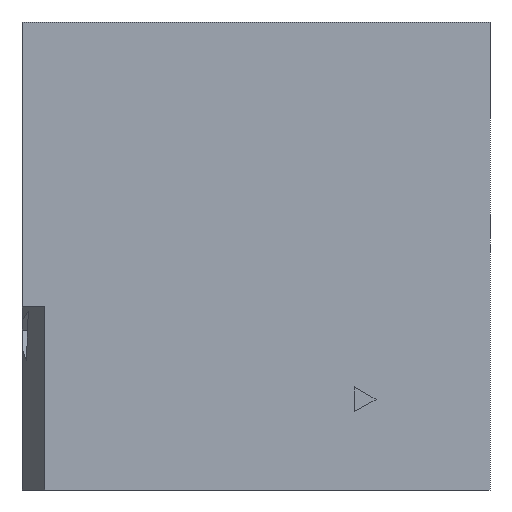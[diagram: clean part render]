
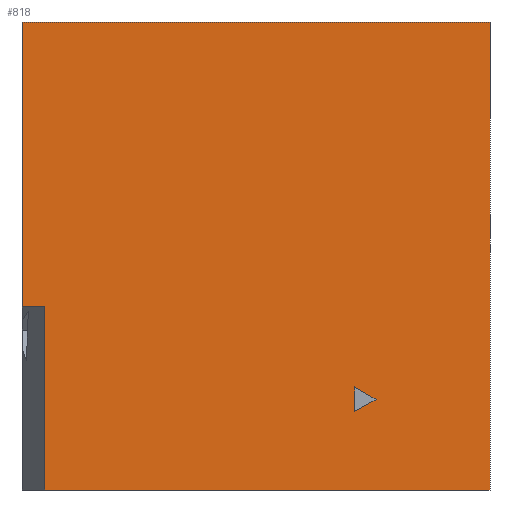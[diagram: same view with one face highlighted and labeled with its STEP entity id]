
A CAD part, left-side view. The second image highlights one B-rep face of the part: STEP entity #818.
In plain terms, the highlighted planar face has unit normal (-1, 0, 0).
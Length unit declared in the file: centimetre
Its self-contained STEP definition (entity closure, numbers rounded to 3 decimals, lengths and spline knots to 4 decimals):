
#15 = LINE ( 'NONE', #649, #418 ) ;
#95 = LINE ( 'NONE', #972, #238 ) ;
#101 = LINE ( 'NONE', #1175, #1006 ) ;
#114 = DIRECTION ( 'NONE',  ( 0., -0.868, 0.496 ) ) ;
#127 = EDGE_CURVE ( 'NONE', #704, #463, #15, .T. ) ;
#139 = VERTEX_POINT ( 'NONE', #1278 ) ;
#145 = LINE ( 'NONE', #577, #597 ) ;
#146 = VERTEX_POINT ( 'NONE', #545 ) ;
#169 = VERTEX_POINT ( 'NONE', #771 ) ;
#176 = EDGE_CURVE ( 'NONE', #169, #146, #314, .T. ) ;
#183 = CARTESIAN_POINT ( 'NONE',  ( 0., 0., 0. ) ) ;
#238 = VECTOR ( 'NONE', #312, 100. ) ;
#241 = DIRECTION ( 'NONE',  ( 0., -1., 0. ) ) ;
#279 = EDGE_CURVE ( 'NONE', #988, #139, #894, .T. ) ;
#280 = VECTOR ( 'NONE', #340, 100. ) ;
#301 = CARTESIAN_POINT ( 'NONE',  ( 0., 951.7683, 0. ) ) ;
#312 = DIRECTION ( 'NONE',  ( 0., 0., -1. ) ) ;
#314 = LINE ( 'NONE', #518, #551 ) ;
#338 = EDGE_CURVE ( 'NONE', #504, #851, #346, .T. ) ;
#340 = DIRECTION ( 'NONE',  ( 0., 1., 0. ) ) ;
#346 = LINE ( 'NONE', #1205, #872 ) ;
#401 = CARTESIAN_POINT ( 'NONE',  ( 0., 243.5242, 193.4842 ) ) ;
#418 = VECTOR ( 'NONE', #114, 100. ) ;
#457 = ORIENTED_EDGE ( 'NONE', *, *, #799, .T. ) ;
#463 = VERTEX_POINT ( 'NONE', #486 ) ;
#486 = CARTESIAN_POINT ( 'NONE',  ( 0., 243.5242, 193.4842 ) ) ;
#504 = VERTEX_POINT ( 'NONE', #301 ) ;
#507 = PLANE ( 'NONE',  #1279 ) ;
#517 = DIRECTION ( 'NONE',  ( 0., 0., -1. ) ) ;
#518 = CARTESIAN_POINT ( 'NONE',  ( 0., 1000., 1000. ) ) ;
#529 = VECTOR ( 'NONE', #1233, 100. ) ;
#532 = VECTOR ( 'NONE', #832, 100. ) ;
#545 = CARTESIAN_POINT ( 'NONE',  ( 0., 0., 1000. ) ) ;
#551 = VECTOR ( 'NONE', #961, 100. ) ;
#577 = CARTESIAN_POINT ( 'NONE',  ( 0., 1000., 1000. ) ) ;
#585 = ORIENTED_EDGE ( 'NONE', *, *, #127, .F. ) ;
#597 = VECTOR ( 'NONE', #624, 100. ) ;
#624 = DIRECTION ( 'NONE',  ( 0., 0., -1. ) ) ;
#626 = ORIENTED_EDGE ( 'NONE', *, *, #279, .F. ) ;
#638 = EDGE_CURVE ( 'NONE', #146, #851, #1348, .T. ) ;
#639 = CARTESIAN_POINT ( 'NONE',  ( 0., 951.7683, 391.1465 ) ) ;
#649 = CARTESIAN_POINT ( 'NONE',  ( 0., 288.8606, 167.6079 ) ) ;
#704 = VERTEX_POINT ( 'NONE', #786 ) ;
#737 = ORIENTED_EDGE ( 'NONE', *, *, #933, .F. ) ;
#771 = CARTESIAN_POINT ( 'NONE',  ( 0., 1000., 1000. ) ) ;
#786 = CARTESIAN_POINT ( 'NONE',  ( 0., 288.8606, 167.6079 ) ) ;
#793 = CARTESIAN_POINT ( 'NONE',  ( 0., 1000., 391.1465 ) ) ;
#799 = EDGE_CURVE ( 'NONE', #169, #139, #145, .T. ) ;
#806 = CARTESIAN_POINT ( 'NONE',  ( 0., 0., 1000. ) ) ;
#815 = FACE_OUTER_BOUND ( 'NONE', #854, .T. ) ;
#818 = ADVANCED_FACE ( 'NONE', ( #954, #815 ), #507, .F. ) ;
#820 = CARTESIAN_POINT ( 'NONE',  ( 0., 288.8606, 220.2565 ) ) ;
#832 = DIRECTION ( 'NONE',  ( 0., 0.861, 0.508 ) ) ;
#851 = VERTEX_POINT ( 'NONE', #183 ) ;
#854 = EDGE_LOOP ( 'NONE', ( #626, #1206, #1123, #1266, #1020, #457 ) ) ;
#872 = VECTOR ( 'NONE', #241, 100. ) ;
#894 = LINE ( 'NONE', #793, #280 ) ;
#928 = DIRECTION ( 'NONE',  ( 1., 0., 0. ) ) ;
#933 = EDGE_CURVE ( 'NONE', #463, #1178, #1370, .T. ) ;
#951 = EDGE_CURVE ( 'NONE', #988, #504, #95, .T. ) ;
#954 = FACE_BOUND ( 'NONE', #1304, .T. ) ;
#961 = DIRECTION ( 'NONE',  ( 0., -1., 0. ) ) ;
#972 = CARTESIAN_POINT ( 'NONE',  ( 0., 951.7683, 391.1465 ) ) ;
#977 = EDGE_CURVE ( 'NONE', #1178, #704, #101, .T. ) ;
#988 = VERTEX_POINT ( 'NONE', #639 ) ;
#1006 = VECTOR ( 'NONE', #1393, 100. ) ;
#1020 = ORIENTED_EDGE ( 'NONE', *, *, #176, .F. ) ;
#1039 = ORIENTED_EDGE ( 'NONE', *, *, #977, .F. ) ;
#1123 = ORIENTED_EDGE ( 'NONE', *, *, #338, .T. ) ;
#1175 = CARTESIAN_POINT ( 'NONE',  ( 0., 288.8606, 220.2565 ) ) ;
#1178 = VERTEX_POINT ( 'NONE', #820 ) ;
#1205 = CARTESIAN_POINT ( 'NONE',  ( 0., 1000., 0. ) ) ;
#1206 = ORIENTED_EDGE ( 'NONE', *, *, #951, .T. ) ;
#1233 = DIRECTION ( 'NONE',  ( 0., 0., -1. ) ) ;
#1266 = ORIENTED_EDGE ( 'NONE', *, *, #638, .F. ) ;
#1269 = CARTESIAN_POINT ( 'NONE',  ( 0., 1000., 1000. ) ) ;
#1278 = CARTESIAN_POINT ( 'NONE',  ( 0., 1000., 391.1465 ) ) ;
#1279 = AXIS2_PLACEMENT_3D ( 'NONE', #1269, #928, #517 ) ;
#1304 = EDGE_LOOP ( 'NONE', ( #1039, #737, #585 ) ) ;
#1348 = LINE ( 'NONE', #806, #529 ) ;
#1370 = LINE ( 'NONE', #401, #532 ) ;
#1393 = DIRECTION ( 'NONE',  ( 0., 0., -1. ) ) ;
